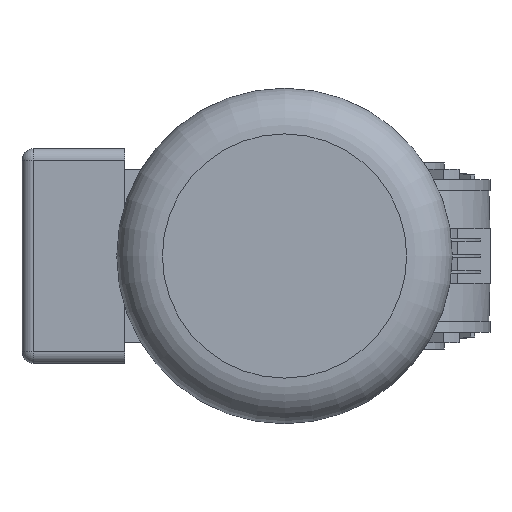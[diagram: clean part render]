
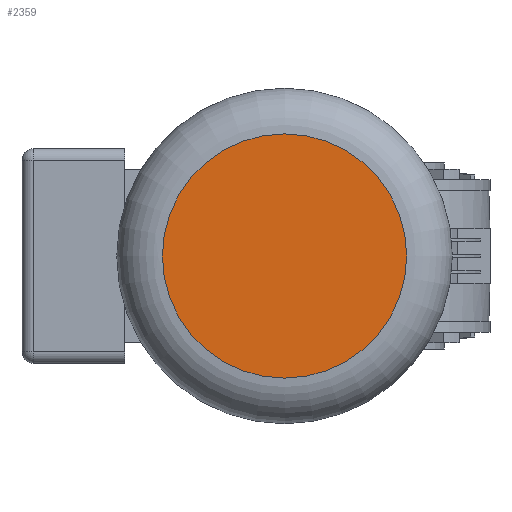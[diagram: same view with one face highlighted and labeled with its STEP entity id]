
A CAD part, left-side view. The second image highlights one B-rep face of the part: STEP entity #2359.
In plain terms, the highlighted planar face has unit normal (-1, 0, 0).
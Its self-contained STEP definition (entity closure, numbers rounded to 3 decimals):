
#2359 = ADVANCED_FACE( '', ( #4955 ), #4956, .T. );
#4955 = FACE_OUTER_BOUND( '', #7682, .T. );
#4956 = PLANE( '', #7683 );
#7682 = EDGE_LOOP( '', ( #14689 ) );
#7683 = AXIS2_PLACEMENT_3D( '', #14690, #14691, #14692 );
#14689 = ORIENTED_EDGE( '', *, *, #15654, .T. );
#14690 = CARTESIAN_POINT( '', ( -281.5, 40., 0. ) );
#14691 = DIRECTION( '', ( -1., 0., 0. ) );
#14692 = DIRECTION( '', ( 0., 1., 0. ) );
#15654 = EDGE_CURVE( '', #18614, #18614, #18615, .T. );
#18614 = VERTEX_POINT( '', #23006 );
#18615 = CIRCLE( '', #23007, 53.5 );
#23006 = CARTESIAN_POINT( '', ( -281.5, 93.5, 0. ) );
#23007 = AXIS2_PLACEMENT_3D( '', #30038, #30039, #30040 );
#30038 = CARTESIAN_POINT( '', ( -281.5, 40., 0. ) );
#30039 = DIRECTION( '', ( -1., 0., 0. ) );
#30040 = DIRECTION( '', ( 0., 1., 0. ) );
